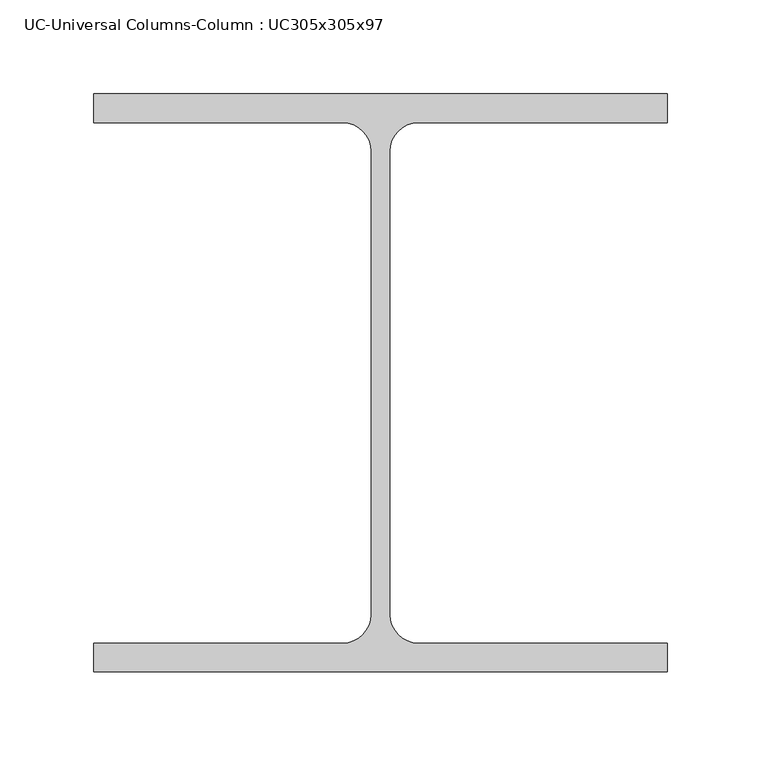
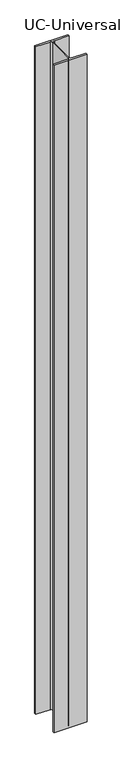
"""IFC4 building model written with IfcOpenShell, lengths in millimetres: column geometry, UC-Universal Columns-Column : UC305x305x97."""

from ifc_helpers import new_model, si_unit, point, frame, frame_2d, origin, place, context, project, spatial, polyline, circle_curve, trimmed, segment, composite_curve, outline, extrude, source, transform, mapped, element, save


def uc_universal_columns_column_uc305x305x97_0a087ea8(model_context):
    return source(origin(), model_context, "Body", "SweptSolid", [
        extrude(outline(composite_curve([segment(polyline([(152.65, 153.95), (152.65, 138.55), (20.15, 138.55)]), True, "CONTINUOUS"), segment(trimmed(circle_curve(frame_2d((20.15, 123.35)), 15.2), [point((20.15, 138.55))], [point((4.95, 123.35))], True, "CARTESIAN"), True, "CONTINUOUS"), segment(polyline([(4.95, 123.35), (4.95, -123.35)]), True, "CONTINUOUS"), segment(trimmed(circle_curve(frame_2d((20.15, -123.35)), 15.2), [point((4.95, -123.35))], [point((20.15, -138.55))], True, "CARTESIAN"), True, "CONTINUOUS"), segment(polyline([(20.15, -138.55), (152.65, -138.55), (152.65, -153.95), (-152.65, -153.95), (-152.65, -138.55), (-20.15, -138.55)]), True, "CONTINUOUS"), segment(trimmed(circle_curve(frame_2d((-20.15, -123.35)), 15.2), [point((-20.15, -138.55))], [point((-4.95, -123.35))], True, "CARTESIAN"), True, "CONTINUOUS"), segment(polyline([(-4.95, -123.35), (-4.95, 123.35)]), True, "CONTINUOUS"), segment(trimmed(circle_curve(frame_2d((-20.15, 123.35)), 15.2), [point((-4.95, 123.35))], [point((-20.15, 138.55))], True, "CARTESIAN"), True, "CONTINUOUS"), segment(polyline([(-20.15, 138.55), (-152.65, 138.55), (-152.65, 153.95), (152.65, 153.95)]), True, "CONTINUOUS")], self_intersect=False)), frame((0.0, 0.0, 11500.0), z_axis=(0.0, 0.0, 1.0), x_axis=(1.0, 0.0, 0.0)), (0.0, 0.0, 1.0), 6500.0),
    ])


if __name__ == "__main__":
    model = new_model("IFC4")
    model_context = context("Model", 3, world=origin())
    ifc_project = project(units=[si_unit("LENGTHUNIT", "METRE", prefix="MILLI")], contexts=[model_context])
    site = spatial("IfcSite", under=ifc_project)
    building = spatial("IfcBuilding", under=site)
    placement = place(None, origin())
    uc_universal_columns_column_uc305x305x97_shape = uc_universal_columns_column_uc305x305x97_0a087ea8(model_context)
    element("IfcColumn", 1, ObjectType="UC-Universal Columns-Column : UC305x305x97", at=placement, inside=building, context=model_context, shape_type="MappedRepresentation", body=[
        mapped(uc_universal_columns_column_uc305x305x97_shape, transform((0.0, 0.0, 0.0), x_axis=(1.0, 0.0, 0.0), y_axis=(0.0, 1.0, 0.0), z_axis=(0.0, 0.0, 1.0))),
    ])
    save(model, "model.ifc")
